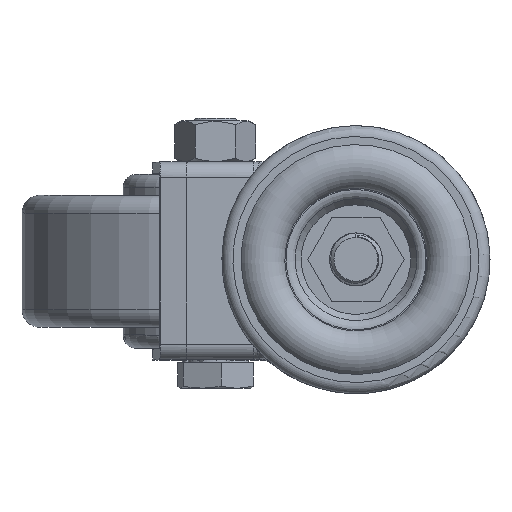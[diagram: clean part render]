
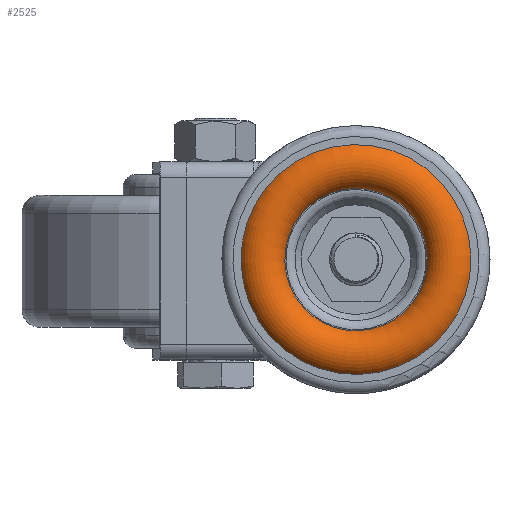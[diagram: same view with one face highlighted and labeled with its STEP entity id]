
A CAD part, top view. The second image highlights one B-rep face of the part: STEP entity #2525.
In plain terms, the highlighted toroidal (fillet/blend) face has major radius 21.5 mm and minor radius 5.6 mm.
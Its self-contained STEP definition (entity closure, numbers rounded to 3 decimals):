
#358=TOROIDAL_SURFACE('',#11685,21.5,5.6);
#2236=FACE_BOUND('',#4107,.T.);
#2237=FACE_BOUND('',#4108,.T.);
#2525=ADVANCED_FACE('',(#2236,#2237),#358,.T.);
#4107=EDGE_LOOP('',(#5141));
#4108=EDGE_LOOP('',(#5142));
#5141=ORIENTED_EDGE('',*,*,#9669,.T.);
#5142=ORIENTED_EDGE('',*,*,#9668,.F.);
#8502=VERTEX_POINT('',#17788);
#8503=VERTEX_POINT('',#17791);
#9668=EDGE_CURVE('',#8502,#8502,#11211,.T.);
#9669=EDGE_CURVE('',#8503,#8503,#11212,.T.);
#11211=CIRCLE('',#11682,26.164);
#11212=CIRCLE('',#11684,16.19);
#11682=AXIS2_PLACEMENT_3D('',#17787,#12938,#12939);
#11684=AXIS2_PLACEMENT_3D('',#17790,#12942,#12943);
#11685=AXIS2_PLACEMENT_3D('',#17792,#12944,#12945);
#12938=DIRECTION('',(0.,0.,-1.));
#12939=DIRECTION('',(0.929,0.37,0.));
#12942=DIRECTION('',(0.,0.,-1.));
#12943=DIRECTION('',(0.929,0.37,0.));
#12944=DIRECTION('',(0.,0.,-1.));
#12945=DIRECTION('',(-0.929,-0.37,0.));
#17787=CARTESIAN_POINT('',(0.,0.,
-33.502));
#17788=CARTESIAN_POINT('',(24.303,9.692,-33.502));
#17790=CARTESIAN_POINT('',(0.,0.,
-34.822));
#17791=CARTESIAN_POINT('',(15.039,5.997,-34.822));
#17792=CARTESIAN_POINT('',(0.,0.,
-36.602));
